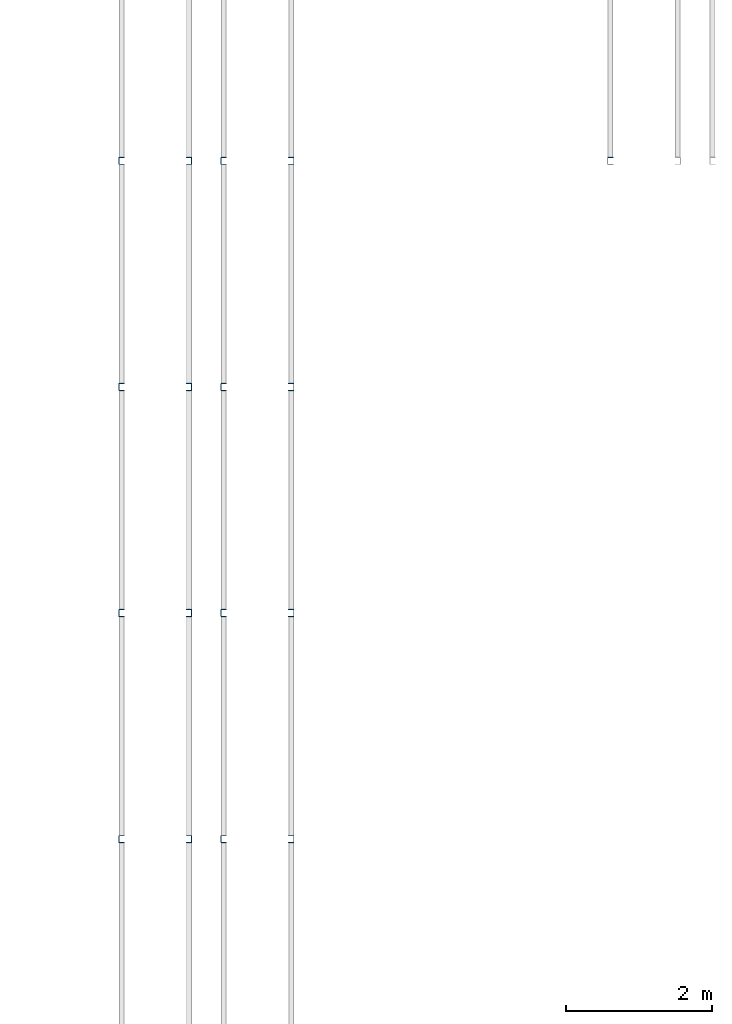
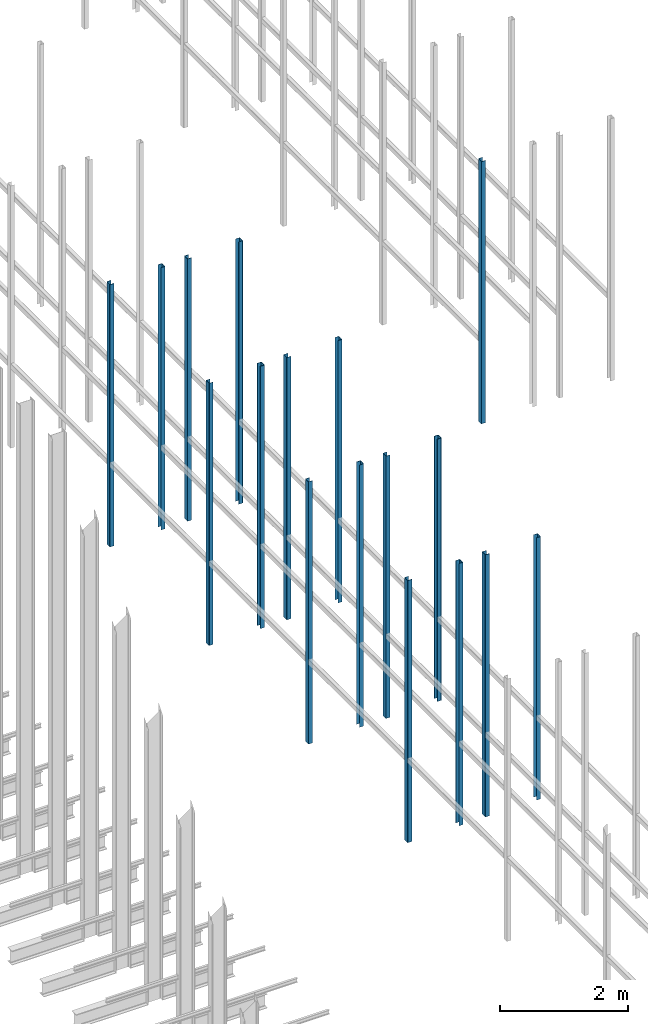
# One storey, part 55 of 302: 17 columns.
"""IFC2X3 building model written with IfcOpenShell, lengths in metres."""

from ifc_helpers import new_model, entity, si_unit, converted_unit, derived_unit, direction, frame, frame_2d, origin, place, context, subcontext, project, spatial, polyline, circle_curve, parameter, trimmed, segment, composite_curve, outline, extrude, source, transform, mapped, material, type_object, type_shapes, element, save


model = new_model("IFC2X3")

# Units and contexts
model_context = context("Model", 3, precision=1e-05, world=origin(), true_north=direction((6.12303176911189e-17, 1.0)))
body_context = subcontext(model_context, "Body", "Model", "MODEL_VIEW")
ifc_project = project(units=[si_unit("LENGTHUNIT", "METRE"), si_unit("AREAUNIT", "SQUARE_METRE"), si_unit("VOLUMEUNIT", "CUBIC_METRE"), converted_unit("PLANEANGLEUNIT", "DEGREE", entity("IfcRatioMeasure", 0.0174532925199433), si_unit("PLANEANGLEUNIT", "RADIAN"), dimensions=[0, 0, 0, 0, 0, 0, 0]), si_unit("MASSUNIT", "GRAM", prefix="KILO"), derived_unit("MASSDENSITYUNIT", [(si_unit("MASSUNIT", "GRAM", prefix="KILO"), 1), (si_unit("LENGTHUNIT", "METRE"), -3)]), derived_unit("MOMENTOFINERTIAUNIT", [(si_unit("LENGTHUNIT", "METRE"), 4)]), si_unit("TIMEUNIT", "SECOND"), si_unit("FREQUENCYUNIT", "HERTZ"), si_unit("THERMODYNAMICTEMPERATUREUNIT", "DEGREE_CELSIUS"), derived_unit("THERMALTRANSMITTANCEUNIT", [(si_unit("MASSUNIT", "GRAM", prefix="KILO"), 1), (si_unit("THERMODYNAMICTEMPERATUREUNIT", "KELVIN"), -1), (si_unit("TIMEUNIT", "SECOND"), -3)]), derived_unit("VOLUMETRICFLOWRATEUNIT", [(si_unit("LENGTHUNIT", "METRE"), 3), (si_unit("TIMEUNIT", "SECOND"), -1)]), si_unit("ELECTRICCURRENTUNIT", "AMPERE"), si_unit("ELECTRICVOLTAGEUNIT", "VOLT"), si_unit("POWERUNIT", "WATT"), si_unit("FORCEUNIT", "NEWTON", prefix="KILO"), si_unit("ILLUMINANCEUNIT", "LUX"), si_unit("LUMINOUSFLUXUNIT", "LUMEN"), si_unit("LUMINOUSINTENSITYUNIT", "CANDELA"), derived_unit("USERDEFINED", [(si_unit("MASSUNIT", "GRAM", prefix="KILO"), -1), (si_unit("LENGTHUNIT", "METRE"), -2), (si_unit("TIMEUNIT", "SECOND"), 3), (si_unit("LUMINOUSFLUXUNIT", "LUMEN"), 1)]), derived_unit("LINEARVELOCITYUNIT", [(si_unit("LENGTHUNIT", "METRE"), 1), (si_unit("TIMEUNIT", "SECOND"), -1)]), si_unit("PRESSUREUNIT", "PASCAL"), derived_unit("USERDEFINED", [(si_unit("LENGTHUNIT", "METRE"), -2), (si_unit("MASSUNIT", "GRAM", prefix="KILO"), 1), (si_unit("TIMEUNIT", "SECOND"), -2)]), derived_unit("LINEARFORCEUNIT", [(si_unit("MASSUNIT", "GRAM", prefix="KILO"), 1), (si_unit("LENGTHUNIT", "METRE"), 1), (si_unit("TIMEUNIT", "SECOND"), -2), (si_unit("LENGTHUNIT", "METRE"), -1)]), derived_unit("PLANARFORCEUNIT", [(si_unit("MASSUNIT", "GRAM", prefix="KILO"), 1), (si_unit("LENGTHUNIT", "METRE"), 1), (si_unit("TIMEUNIT", "SECOND"), -2), (si_unit("LENGTHUNIT", "METRE"), -2)])], contexts=[model_context])

# Site, building, storey
site_placement = place(None, origin())
site = spatial("IfcSite", under=ifc_project, at=site_placement, Name="Default", CompositionType="ELEMENT")
building_placement = place(site_placement, origin())
building = spatial("IfcBuilding", under=site, at=building_placement, CompositionType="ELEMENT")
storey_placement = place(building_placement, frame((0.0, 0.0, -1.3)))
storey = spatial("IfcBuildingStorey", under=building, at=storey_placement, Name="00_EG", CompositionType="ELEMENT", Elevation=-1.3)

# Columns
ifc_material = material(Name="Metall - Baustahl S235")
column_type_1 = type_object("IfcColumnType", Name="Leichter Stahl Schlossschrauben Stütze:C 100", PredefinedType="COLUMN", material=ifc_material)
shared_shape_1 = source(origin(), body_context, "Body", "SweptSolid", [
    extrude(outline(composite_curve([segment(polyline([(-0.0469749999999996, -0.0499999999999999), (0.0214500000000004, -0.0499999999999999)]), True, "CONTINUOUS"), segment(trimmed(circle_curve(frame_2d((0.0214500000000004, -0.0434249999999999), x_axis=(0.0, -1.0)), 0.00657500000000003), [parameter(0.0)], [parameter(89.9999999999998)], True, "PARAMETER"), True, "CONTINUOUS"), segment(polyline([(0.0280250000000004, -0.0434249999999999), (0.0280250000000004, 0.0434250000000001)]), True, "CONTINUOUS"), segment(trimmed(circle_curve(frame_2d((0.0214500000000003, 0.0434250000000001), x_axis=(1.0, 0.0)), 0.0065750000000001), [parameter(0.0)], [parameter(89.9999999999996)], True, "PARAMETER"), True, "CONTINUOUS"), segment(polyline([(0.0214500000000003, 0.0500000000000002), (-0.0469750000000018, 0.0500000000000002)]), True, "CONTINUOUS"), segment(polyline([(-0.0469750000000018, 0.0500000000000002), (-0.0469750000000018, 0.0450000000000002)]), True, "CONTINUOUS"), segment(polyline([(-0.0469750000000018, 0.0450000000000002), (0.0214500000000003, 0.0450000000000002)]), True, "CONTINUOUS"), segment(trimmed(circle_curve(frame_2d((0.0214500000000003, 0.0434249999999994), x_axis=(0.0, 1.0)), 0.00157500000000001), [parameter(269.999999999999)], [parameter(0.0)], True, "PARAMETER"), False, "CONTINUOUS"), segment(polyline([(0.0230250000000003, 0.0434249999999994), (0.0230250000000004, -0.0434249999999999)]), True, "CONTINUOUS"), segment(trimmed(circle_curve(frame_2d((0.0214500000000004, -0.0434249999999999), x_axis=(1.0, 0.0)), 0.00157500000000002), [parameter(270.0)], [parameter(0.0)], True, "PARAMETER"), False, "CONTINUOUS"), segment(polyline([(0.0214500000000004, -0.0449999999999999), (-0.0469749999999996, -0.0449999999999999)]), True, "CONTINUOUS"), segment(polyline([(-0.0469749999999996, -0.0449999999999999), (-0.0469749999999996, -0.0499999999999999)]), True, "CONTINUOUS")], self_intersect=False)), frame((0.0499999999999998, 0.0280250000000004, -0.0300000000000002), z_axis=(0.0, 0.0, 1.0), x_axis=(0.0, -1.0, 0.0)), (0.0, 0.0, 1.0), 5.0),
])
type_shapes(column_type_1, [shared_shape_1])
for number, where, z_axis, x_axis in (
    (1, (-159.193311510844, 32.8480889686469, 1.3), (0.0, 0.0, 1.0), (0.0, -1.0, 0.0)),
    (2, (-159.193311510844, 35.9480889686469, 1.3), (0.0, 0.0, 1.0), (0.0, -1.0, 0.0)),
    (3, (-159.193311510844, 39.0480889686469, 1.3), (0.0, 0.0, 1.0), (0.0, -1.0, 0.0)),
    (4, (-159.193311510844, 42.1480889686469, 1.3), (0.0, 0.0, 1.0), (0.0, -1.0, 0.0)),
    (5, (-157.793311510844, 32.8480889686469, 1.3), (0.0, 0.0, 1.0), (0.0, -1.0, 0.0)),
    (6, (-157.793311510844, 35.9480889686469, 1.3), (0.0, 0.0, 1.0), (0.0, -1.0, 0.0)),
    (7, (-157.793311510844, 39.0480889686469, 1.3), (0.0, 0.0, 1.0), (0.0, -1.0, 0.0)),
    (8, (-157.793311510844, 42.1480889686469, 1.3), (0.0, 0.0, 1.0), (0.0, -1.0, 0.0)),
    (9, (-152.493311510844, 42.1480889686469, 1.3), (0.0, 0.0, 1.0), (0.0, -1.0, 0.0)),
):
    element("IfcColumn", number, at=place(storey_placement, frame(where, z_axis=z_axis, x_axis=x_axis)), inside=storey, type_object=column_type_1, material=ifc_material, Name="Leichter Stahl Schlossschrauben Stütze:C 100", ObjectType="Leichter Stahl Schlossschrauben Stütze:C 100", context=body_context, shape_type="MappedRepresentation", body=[
        mapped(shared_shape_1, transform((0.0, 0.0, 0.0), scale=1.0)),
    ])
column_type_2 = type_object("IfcColumnType", Name="Leichter Stahl Schlossschrauben Stütze:C 100", PredefinedType="COLUMN", material=ifc_material)
shared_shape_2 = source(origin(), body_context, "Body", "SweptSolid", [
    extrude(outline(composite_curve([segment(polyline([(-0.0214500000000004, -0.0499999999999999), (0.0469749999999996, -0.0499999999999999)]), True, "CONTINUOUS"), segment(polyline([(0.0469749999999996, -0.0499999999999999), (0.0469749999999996, -0.0449999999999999)]), True, "CONTINUOUS"), segment(polyline([(0.0469749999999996, -0.0449999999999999), (-0.0214500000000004, -0.045)]), True, "CONTINUOUS"), segment(trimmed(circle_curve(frame_2d((-0.0214500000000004, -0.043425), x_axis=(0.0, -1.0)), 0.00157500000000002), [parameter(270.0)], [parameter(0.0)], True, "PARAMETER"), False, "CONTINUOUS"), segment(polyline([(-0.0230250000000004, -0.0434249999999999), (-0.0230250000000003, 0.0434249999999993)]), True, "CONTINUOUS"), segment(trimmed(circle_curve(frame_2d((-0.0214500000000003, 0.0434249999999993), x_axis=(-1.0, 0.0)), 0.00157500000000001), [parameter(269.999999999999)], [parameter(0.0)], True, "PARAMETER"), False, "CONTINUOUS"), segment(polyline([(-0.0214500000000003, 0.0450000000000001), (0.0469750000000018, 0.0450000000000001)]), True, "CONTINUOUS"), segment(polyline([(0.0469750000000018, 0.0450000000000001), (0.0469750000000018, 0.0500000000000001)]), True, "CONTINUOUS"), segment(polyline([(0.0469750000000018, 0.0500000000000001), (-0.0214500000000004, 0.0500000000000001)]), True, "CONTINUOUS"), segment(trimmed(circle_curve(frame_2d((-0.0214500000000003, 0.043425), x_axis=(0.0, 1.0)), 0.0065750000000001), [parameter(0.0)], [parameter(89.9999999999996)], True, "PARAMETER"), True, "CONTINUOUS"), segment(polyline([(-0.0280250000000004, 0.043425), (-0.0280250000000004, -0.043425)]), True, "CONTINUOUS"), segment(trimmed(circle_curve(frame_2d((-0.0214500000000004, -0.0434249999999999), x_axis=(-1.0, 0.0)), 0.00657500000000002), [parameter(0.0)], [parameter(89.9999999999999)], True, "PARAMETER"), True, "CONTINUOUS")], self_intersect=False)), frame((0.0499999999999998, -0.0280250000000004, -0.0300000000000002), z_axis=(0.0, 0.0, 1.0), x_axis=(0.0, -1.0, 0.0)), (0.0, 0.0, 1.0), 5.0),
])
type_shapes(column_type_2, [shared_shape_2])
for number, where, z_axis, x_axis in (
    (10, (-158.193311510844, 32.8480889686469, 1.3), (0.0, 0.0, 1.0), (0.0, -1.0, 0.0)),
    (11, (-158.193311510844, 35.9480889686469, 1.3), (0.0, 0.0, 1.0), (0.0, -1.0, 0.0)),
    (12, (-158.193311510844, 39.0480889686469, 1.3), (0.0, 0.0, 1.0), (0.0, -1.0, 0.0)),
    (13, (-158.193311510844, 42.1480889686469, 1.3), (0.0, 0.0, 1.0), (0.0, -1.0, 0.0)),
    (14, (-156.793311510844, 32.8480889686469, 1.3), (0.0, 0.0, 1.0), (0.0, -1.0, 0.0)),
    (15, (-156.793311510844, 35.9480889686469, 1.3), (0.0, 0.0, 1.0), (0.0, -1.0, 0.0)),
    (16, (-156.793311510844, 39.0480889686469, 1.3), (0.0, 0.0, 1.0), (0.0, -1.0, 0.0)),
    (17, (-156.793311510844, 42.1480889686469, 1.3), (0.0, 0.0, 1.0), (0.0, -1.0, 0.0)),
):
    element("IfcColumn", number, at=place(storey_placement, frame(where, z_axis=z_axis, x_axis=x_axis)), inside=storey, type_object=column_type_2, material=ifc_material, Name="Leichter Stahl Schlossschrauben Stütze:C 100", ObjectType="Leichter Stahl Schlossschrauben Stütze:C 100", context=body_context, shape_type="MappedRepresentation", body=[
        mapped(shared_shape_2, transform((0.0, 0.0, 0.0), scale=1.0)),
    ])

save(model, "model.ifc")
